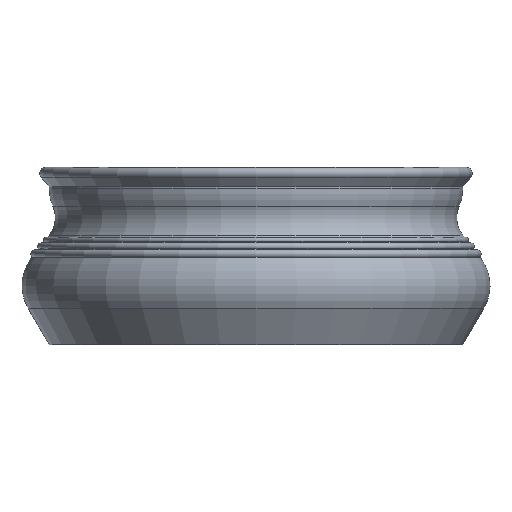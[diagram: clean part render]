
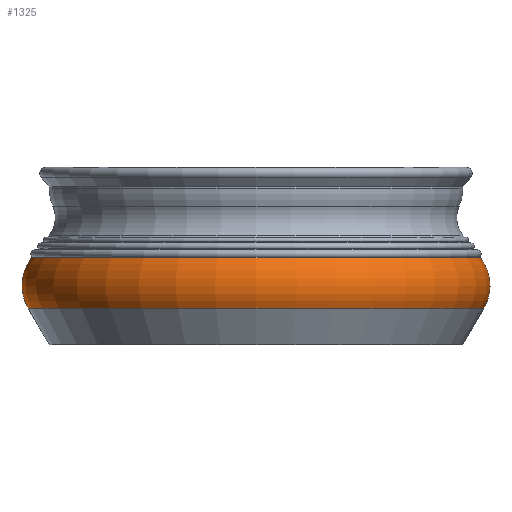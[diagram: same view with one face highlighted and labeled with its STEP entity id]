
A CAD part, front view. The second image highlights one B-rep face of the part: STEP entity #1325.
In plain terms, the highlighted toroidal (fillet/blend) face has major radius 159.901 mm and minor radius 38.099 mm.
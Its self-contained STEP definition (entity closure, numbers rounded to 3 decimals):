
#22=TOROIDAL_SURFACE('',#1505,159.901,38.099);
#166=FACE_OUTER_BOUND('',#284,.T.);
#284=EDGE_LOOP('',(#1208,#1209,#1210,#1211));
#526=CIRCLE('',#1467,192.883);
#549=CIRCLE('',#1506,189.889);
#550=CIRCLE('',#1507,38.099);
#653=VERTEX_POINT('',#2240);
#669=VERTEX_POINT('',#2303);
#818=EDGE_CURVE('',#653,#653,#526,.T.);
#849=EDGE_CURVE('',#669,#669,#549,.T.);
#850=EDGE_CURVE('',#669,#653,#550,.T.);
#1208=ORIENTED_EDGE('',*,*,#849,.F.);
#1209=ORIENTED_EDGE('',*,*,#850,.T.);
#1210=ORIENTED_EDGE('',*,*,#818,.T.);
#1211=ORIENTED_EDGE('',*,*,#850,.F.);
#1325=ADVANCED_FACE('',(#166),#22,.T.);
#1467=AXIS2_PLACEMENT_3D('',#2241,#1837,#1838);
#1505=AXIS2_PLACEMENT_3D('',#2302,#1921,#1922);
#1506=AXIS2_PLACEMENT_3D('',#2304,#1923,#1924);
#1507=AXIS2_PLACEMENT_3D('',#2305,#1925,#1926);
#1837=DIRECTION('center_axis',(0.,0.,1.));
#1838=DIRECTION('ref_axis',(1.,0.,0.));
#1921=DIRECTION('center_axis',(0.,0.,1.));
#1922=DIRECTION('ref_axis',(1.,0.,0.));
#1923=DIRECTION('center_axis',(0.,0.,1.));
#1924=DIRECTION('ref_axis',(1.,0.,0.));
#1925=DIRECTION('center_axis',(0.,-1.,0.));
#1926=DIRECTION('ref_axis',(-1.,0.,0.));
#2240=CARTESIAN_POINT('',(-192.883,0.,30.929));
#2241=CARTESIAN_POINT('Origin',(0.,0.,30.929));
#2302=CARTESIAN_POINT('Origin',(0.,0.,50.));
#2303=CARTESIAN_POINT('',(-189.889,0.,73.5));
#2304=CARTESIAN_POINT('Origin',(0.,0.,73.5));
#2305=CARTESIAN_POINT('Origin',(-159.901,0.,
50.));
